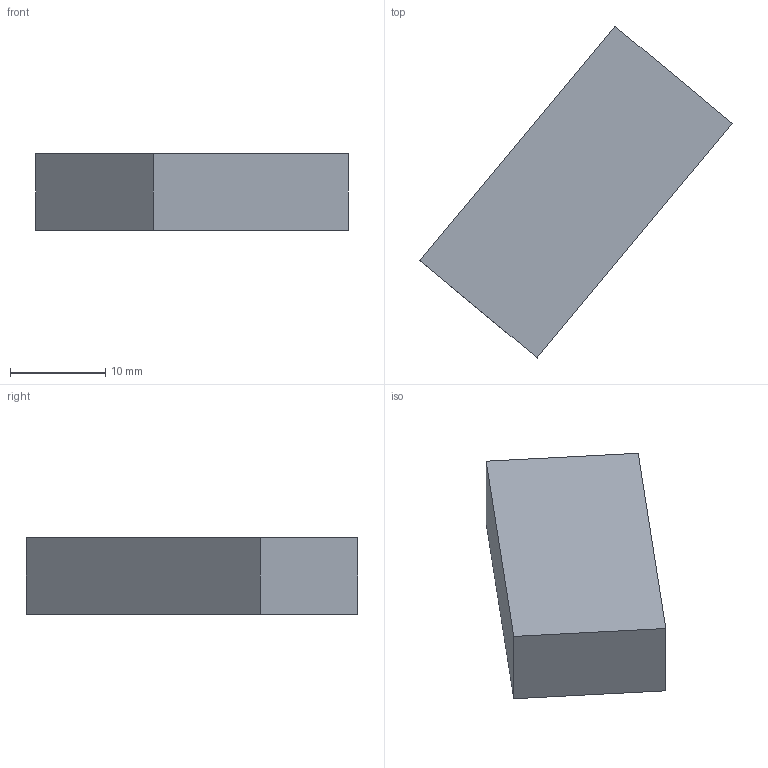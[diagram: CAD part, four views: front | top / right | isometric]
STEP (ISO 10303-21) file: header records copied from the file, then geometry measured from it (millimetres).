
FILE_DESCRIPTION(('Open CASCADE Model'),'2;1');
FILE_NAME('Open CASCADE Shape Model','2026-10-04T02:31:45',('Author'),( 'Open CASCADE'),'Open CASCADE STEP processor 8.0','Open CASCADE 8.0' ,'Unknown');
FILE_SCHEMA(('AUTOMOTIVE_DESIGN { 1 0 10303 214 1 1 1 1 }'));
Length unit declared in the file: millimetre
Products named in the file (1): Open CASCADE STEP translator 8.0 360
Bounding box: 32.75 x 34.79 x 8 mm (x, y, z)
Volume: 4089.7 mm3; surface area: 1789.6 mm2
Topology: 1 solids, 1 shells, 6 faces, 12 edges, 8 vertices
Faces by surface type: plane 6
Entity records: 322 total; most frequent: CARTESIAN_POINT 51, DIRECTION 50, LINE 36, VECTOR 36, ORIENTED_EDGE 24, PCURVE 24, DEFINITIONAL_REPRESENTATION 24, EDGE_CURVE 12
